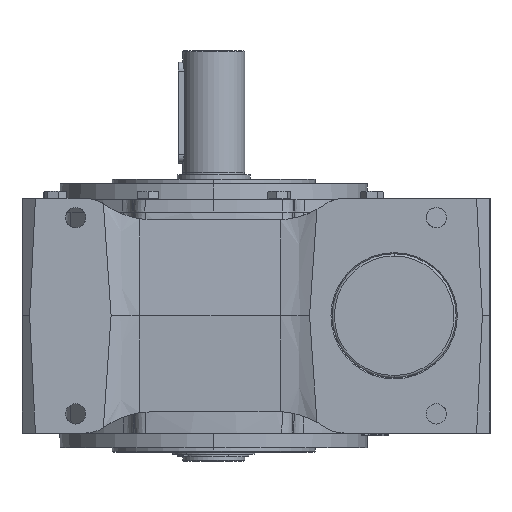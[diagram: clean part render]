
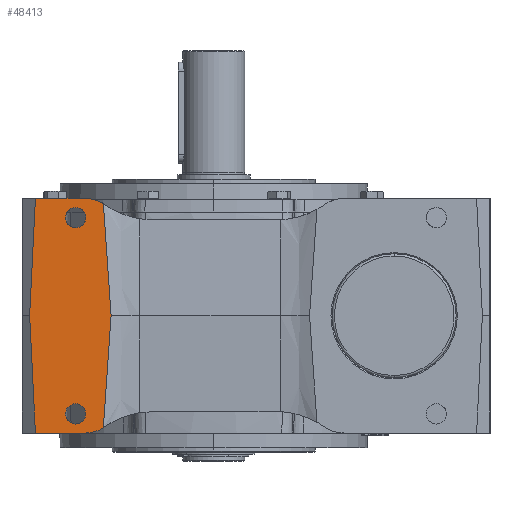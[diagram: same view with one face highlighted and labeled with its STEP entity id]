
A CAD part, left-side view. The second image highlights one B-rep face of the part: STEP entity #48413.
In plain terms, the highlighted planar face has unit normal (-1, 0, 0).
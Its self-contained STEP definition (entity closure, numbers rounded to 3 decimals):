
#680 = AXIS2_PLACEMENT_3D ( 'NONE', #56727, #10453, #64542 ) ;
#1178 = EDGE_CURVE ( 'NONE', #54944, #46011, #71588, .T. ) ;
#2887 = AXIS2_PLACEMENT_3D ( 'NONE', #60601, #14300, #68420 ) ;
#4146 = AXIS2_PLACEMENT_3D ( 'NONE', #97503, #50952, #4727 ) ;
#4727 = DIRECTION ( 'NONE',  ( 0., 0., 1. ) ) ;
#5557 = FACE_OUTER_BOUND ( 'NONE', #83264, .T. ) ;
#5622 = CARTESIAN_POINT ( 'NONE',  ( -170., 113.851, 104. ) ) ;
#6176 = VECTOR ( 'NONE', #30749, 1000. ) ;
#6368 = EDGE_CURVE ( 'NONE', #16495, #48046, #73642, .T. ) ;
#8096 = AXIS2_PLACEMENT_3D ( 'NONE', #83403, #36975, #91226 ) ;
#8206 = ORIENTED_EDGE ( 'NONE', *, *, #87467, .T. ) ;
#8637 = CARTESIAN_POINT ( 'NONE',  ( -170., 91.006, 0. ) ) ;
#10453 = DIRECTION ( 'NONE',  ( -1., 0., 0. ) ) ;
#11263 = CIRCLE ( 'NONE', #29420, 9. ) ;
#12073 = VERTEX_POINT ( 'NONE', #5622 ) ;
#12717 = EDGE_CURVE ( 'NONE', #35969, #67948, #91971, .T. ) ;
#14103 = CARTESIAN_POINT ( 'NONE',  ( -170., 158.098, -104. ) ) ;
#14300 = DIRECTION ( 'NONE',  ( -1., 0., 0. ) ) ;
#15757 = ORIENTED_EDGE ( 'NONE', *, *, #25278, .F. ) ;
#16409 = CARTESIAN_POINT ( 'NONE',  ( -170., 96.799, 82.809 ) ) ;
#16495 = VERTEX_POINT ( 'NONE', #41822 ) ;
#19454 = ORIENTED_EDGE ( 'NONE', *, *, #1178, .F. ) ;
#20679 = CARTESIAN_POINT ( 'NONE',  ( -170., 95.711, -66.242 ) ) ;
#25278 = EDGE_CURVE ( 'NONE', #59104, #73378, #83224, .T. ) ;
#25348 = VERTEX_POINT ( 'NONE', #72694 ) ;
#27852 = CIRCLE ( 'NONE', #680, 30. ) ;
#28257 = CARTESIAN_POINT ( 'NONE',  ( -170., 122.5, -87. ) ) ;
#28463 = CARTESIAN_POINT ( 'NONE',  ( -170., 97.852, -99.377 ) ) ;
#28590 = ORIENTED_EDGE ( 'NONE', *, *, #42755, .T. ) ;
#29414 = EDGE_LOOP ( 'NONE', ( #19454, #99678 ) ) ;
#29420 = AXIS2_PLACEMENT_3D ( 'NONE', #28257, #82447, #35999 ) ;
#30749 = DIRECTION ( 'NONE',  ( 0., -1., 0. ) ) ;
#33572 = CARTESIAN_POINT ( 'NONE',  ( -170., 113.851, -74. ) ) ;
#33871 = EDGE_CURVE ( 'NONE', #73378, #59104, #11263, .T. ) ;
#35969 = VERTEX_POINT ( 'NONE', #51410 ) ;
#35999 = DIRECTION ( 'NONE',  ( 0., 0., 1. ) ) ;
#36975 = DIRECTION ( 'NONE',  ( 1., 0., 0. ) ) ;
#38510 = CARTESIAN_POINT ( 'NONE',  ( -170., 64.974, 104. ) ) ;
#40044 = LINE ( 'NONE', #80247, #88612 ) ;
#41152 = CARTESIAN_POINT ( 'NONE',  ( -170., 122.5, -87. ) ) ;
#41297 = DIRECTION ( 'NONE',  ( 0., 1., 0. ) ) ;
#41306 = ORIENTED_EDGE ( 'NONE', *, *, #6368, .T. ) ;
#41822 = CARTESIAN_POINT ( 'NONE',  ( -170., 91.006, 0. ) ) ;
#42275 = ORIENTED_EDGE ( 'NONE', *, *, #68672, .T. ) ;
#42755 = EDGE_CURVE ( 'NONE', #35969, #65807, #73933, .T. ) ;
#42976 = CARTESIAN_POINT ( 'NONE',  ( -170., 158.159, 102.763 ) ) ;
#43639 = CARTESIAN_POINT ( 'NONE',  ( -170., 91.006, 0. ) ) ;
#44900 = CARTESIAN_POINT ( 'NONE',  ( -170., 122.5, 78. ) ) ;
#46011 = VERTEX_POINT ( 'NONE', #44900 ) ;
#47107 = CARTESIAN_POINT ( 'NONE',  ( -170., 92.258, 16.555 ) ) ;
#47855 = CARTESIAN_POINT ( 'NONE',  ( -170., 122.5, 96. ) ) ;
#48046 = VERTEX_POINT ( 'NONE', #77718 ) ;
#48413 = ADVANCED_FACE ( 'NONE', ( #85469, #86539, #5557 ), #67745, .F. ) ;
#48937 = DIRECTION ( 'NONE',  ( 0., 0., 1. ) ) ;
#49646 = ORIENTED_EDGE ( 'NONE', *, *, #63746, .F. ) ;
#50952 = DIRECTION ( 'NONE',  ( -1., 0., 0. ) ) ;
#51410 = CARTESIAN_POINT ( 'NONE',  ( -170., 113.851, -104. ) ) ;
#51794 = VECTOR ( 'NONE', #89464, 1000. ) ;
#53395 = CARTESIAN_POINT ( 'NONE',  ( -170., 122.5, -78. ) ) ;
#54533 = CARTESIAN_POINT ( 'NONE',  ( -170., 93.44, 33.115 ) ) ;
#54944 = VERTEX_POINT ( 'NONE', #47855 ) ;
#56235 = ORIENTED_EDGE ( 'NONE', *, *, #12717, .F. ) ;
#56727 = CARTESIAN_POINT ( 'NONE',  ( -170., 113.851, 74. ) ) ;
#56907 = CARTESIAN_POINT ( 'NONE',  ( -170., 122.5, -96. ) ) ;
#58513 = CARTESIAN_POINT ( 'NONE',  ( -170., 97.852, -99.377 ) ) ;
#59104 = VERTEX_POINT ( 'NONE', #56907 ) ;
#59118 = LINE ( 'NONE', #42976, #51794 ) ;
#60601 = CARTESIAN_POINT ( 'NONE',  ( -170., 122.5, 87. ) ) ;
#62695 = CARTESIAN_POINT ( 'NONE',  ( -170., 95.711, 66.242 ) ) ;
#63746 = EDGE_CURVE ( 'NONE', #16495, #65807, #92495, .T. ) ;
#64542 = DIRECTION ( 'NONE',  ( 0., 1., 0. ) ) ;
#65807 = VERTEX_POINT ( 'NONE', #58513 ) ;
#67002 = CARTESIAN_POINT ( 'NONE',  ( -170., 93.44, -33.115 ) ) ;
#67745 = PLANE ( 'NONE',  #8096 ) ;
#67838 = LINE ( 'NONE', #38510, #6176 ) ;
#67948 = VERTEX_POINT ( 'NONE', #14103 ) ;
#68420 = DIRECTION ( 'NONE',  ( 0., 0., 1. ) ) ;
#68672 = EDGE_CURVE ( 'NONE', #25348, #67948, #40044, .T. ) ;
#69285 = EDGE_CURVE ( 'NONE', #82901, #12073, #67838, .T. ) ;
#70505 = CARTESIAN_POINT ( 'NONE',  ( -170., 97.852, 99.377 ) ) ;
#71257 = VECTOR ( 'NONE', #93542, 1000. ) ;
#71588 = CIRCLE ( 'NONE', #4146, 9. ) ;
#72040 = CIRCLE ( 'NONE', #2887, 9. ) ;
#72588 = ORIENTED_EDGE ( 'NONE', *, *, #33871, .F. ) ;
#72694 = CARTESIAN_POINT ( 'NONE',  ( -170., 163.234, 0. ) ) ;
#72795 = DIRECTION ( 'NONE',  ( 0., -0.049, -0.999 ) ) ;
#73378 = VERTEX_POINT ( 'NONE', #53395 ) ;
#73642 = B_SPLINE_CURVE_WITH_KNOTS ( 'NONE', 3,
 ( #8637, #47107, #54533, #62695, #16409, #70505 ),
 .UNSPECIFIED., .F., .F.,
 ( 4, 2, 4 ),
 ( 0.098, 0.147, 0.197 ),
 .UNSPECIFIED. ) ;
#73933 = CIRCLE ( 'NONE', #93981, 30. ) ;
#74816 = CARTESIAN_POINT ( 'NONE',  ( -170., 96.799, -82.808 ) ) ;
#77718 = CARTESIAN_POINT ( 'NONE',  ( -170., 97.852, 99.377 ) ) ;
#79273 = ORIENTED_EDGE ( 'NONE', *, *, #69285, .F. ) ;
#80247 = CARTESIAN_POINT ( 'NONE',  ( -170., 158.159, -102.763 ) ) ;
#82447 = DIRECTION ( 'NONE',  ( -1., 0., 0. ) ) ;
#82901 = VERTEX_POINT ( 'NONE', #100393 ) ;
#83224 = CIRCLE ( 'NONE', #89841, 9. ) ;
#83264 = EDGE_LOOP ( 'NONE', ( #41306, #8206, #79273, #86931, #42275, #56235, #28590, #49646 ) ) ;
#83403 = CARTESIAN_POINT ( 'NONE',  ( -170., 170., 149. ) ) ;
#85361 = CARTESIAN_POINT ( 'NONE',  ( -170., 64.974, -104. ) ) ;
#85469 = FACE_BOUND ( 'NONE', #98823, .T. ) ;
#86539 = FACE_BOUND ( 'NONE', #29414, .T. ) ;
#86931 = ORIENTED_EDGE ( 'NONE', *, *, #97712, .F. ) ;
#87467 = EDGE_CURVE ( 'NONE', #48046, #12073, #27852, .T. ) ;
#87805 = DIRECTION ( 'NONE',  ( -1., 0., 0. ) ) ;
#88612 = VECTOR ( 'NONE', #72795, 1000. ) ;
#89464 = DIRECTION ( 'NONE',  ( 0., -0.049, 0.999 ) ) ;
#89841 = AXIS2_PLACEMENT_3D ( 'NONE', #41152, #95468, #48937 ) ;
#91226 = DIRECTION ( 'NONE',  ( 0., 1., 0. ) ) ;
#91615 = EDGE_CURVE ( 'NONE', #46011, #54944, #72040, .T. ) ;
#91971 = LINE ( 'NONE', #85361, #71257 ) ;
#92495 = B_SPLINE_CURVE_WITH_KNOTS ( 'NONE', 3,
 ( #43639, #97924, #67002, #20679, #74816, #28463 ),
 .UNSPECIFIED., .F., .F.,
 ( 4, 2, 4 ),
 ( 0.135, 0.184, 0.234 ),
 .UNSPECIFIED. ) ;
#93542 = DIRECTION ( 'NONE',  ( 0., 1., 0. ) ) ;
#93981 = AXIS2_PLACEMENT_3D ( 'NONE', #33572, #87805, #41297 ) ;
#95468 = DIRECTION ( 'NONE',  ( -1., 0., 0. ) ) ;
#97503 = CARTESIAN_POINT ( 'NONE',  ( -170., 122.5, 87. ) ) ;
#97712 = EDGE_CURVE ( 'NONE', #25348, #82901, #59118, .T. ) ;
#97924 = CARTESIAN_POINT ( 'NONE',  ( -170., 92.258, -16.555 ) ) ;
#98823 = EDGE_LOOP ( 'NONE', ( #72588, #15757 ) ) ;
#99678 = ORIENTED_EDGE ( 'NONE', *, *, #91615, .F. ) ;
#100393 = CARTESIAN_POINT ( 'NONE',  ( -170., 158.098, 104. ) ) ;
